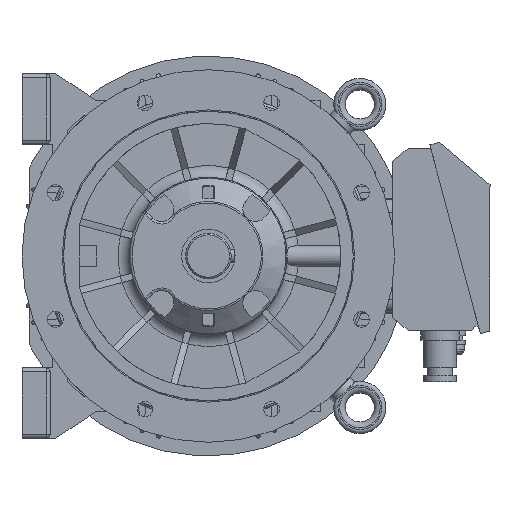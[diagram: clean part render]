
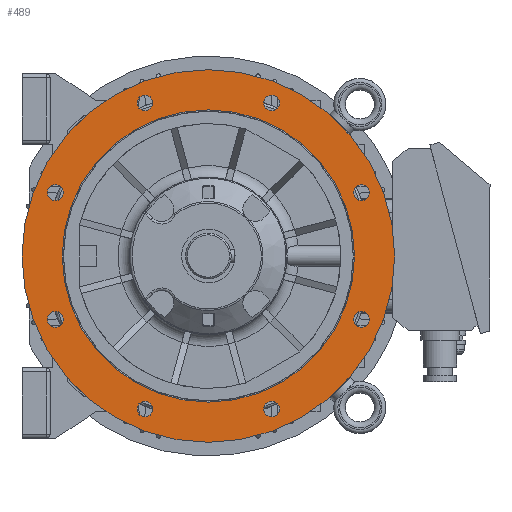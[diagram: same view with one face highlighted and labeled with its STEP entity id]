
A CAD part, front view. The second image highlights one B-rep face of the part: STEP entity #489.
In plain terms, the highlighted planar face has unit normal (0, -1, 0).
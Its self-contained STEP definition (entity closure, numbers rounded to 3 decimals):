
#489 = ADVANCED_FACE( '', ( #1917, #1918, #1919, #1920, #1921, #1922, #1923, #1924, #1925, #1926 ), #1927, .F. );
#1917 = FACE_BOUND( '', #4772, .T. );
#1918 = FACE_BOUND( '', #4773, .T. );
#1919 = FACE_BOUND( '', #4774, .T. );
#1920 = FACE_BOUND( '', #4775, .T. );
#1921 = FACE_BOUND( '', #4776, .T. );
#1922 = FACE_BOUND( '', #4777, .T. );
#1923 = FACE_BOUND( '', #4778, .T. );
#1924 = FACE_BOUND( '', #4779, .T. );
#1925 = FACE_BOUND( '', #4780, .T. );
#1926 = FACE_OUTER_BOUND( '', #4781, .T. );
#1927 = PLANE( '', #4782 );
#4772 = EDGE_LOOP( '', ( #10053 ) );
#4773 = EDGE_LOOP( '', ( #10054 ) );
#4774 = EDGE_LOOP( '', ( #10055 ) );
#4775 = EDGE_LOOP( '', ( #10056 ) );
#4776 = EDGE_LOOP( '', ( #10057 ) );
#4777 = EDGE_LOOP( '', ( #10058 ) );
#4778 = EDGE_LOOP( '', ( #10059 ) );
#4779 = EDGE_LOOP( '', ( #10060 ) );
#4780 = EDGE_LOOP( '', ( #10061 ) );
#4781 = EDGE_LOOP( '', ( #10062 ) );
#4782 = AXIS2_PLACEMENT_3D( '', #10063, #10064, #10065 );
#10053 = ORIENTED_EDGE( '', *, *, #15167, .F. );
#10054 = ORIENTED_EDGE( '', *, *, #15782, .F. );
#10055 = ORIENTED_EDGE( '', *, *, #15783, .F. );
#10056 = ORIENTED_EDGE( '', *, *, #15784, .F. );
#10057 = ORIENTED_EDGE( '', *, *, #15785, .F. );
#10058 = ORIENTED_EDGE( '', *, *, #15786, .F. );
#10059 = ORIENTED_EDGE( '', *, *, #15787, .F. );
#10060 = ORIENTED_EDGE( '', *, *, #15788, .F. );
#10061 = ORIENTED_EDGE( '', *, *, #15169, .F. );
#10062 = ORIENTED_EDGE( '', *, *, #15176, .F. );
#10063 = CARTESIAN_POINT( '', ( 0., -84.5, 176.395 ) );
#10064 = DIRECTION( '', ( 0., 1., 0. ) );
#10065 = DIRECTION( '', ( 0., 0., 1. ) );
#15167 = EDGE_CURVE( '', #18424, #18424, #18425, .T. );
#15169 = EDGE_CURVE( '', #18428, #18428, #18429, .T. );
#15176 = EDGE_CURVE( '', #18442, #18442, #18443, .T. );
#15782 = EDGE_CURVE( '', #19458, #19458, #19459, .T. );
#15783 = EDGE_CURVE( '', #19460, #19460, #19461, .T. );
#15784 = EDGE_CURVE( '', #19462, #19462, #19463, .T. );
#15785 = EDGE_CURVE( '', #19464, #19464, #19465, .T. );
#15786 = EDGE_CURVE( '', #19466, #19466, #19467, .T. );
#15787 = EDGE_CURVE( '', #19468, #19468, #19469, .T. );
#15788 = EDGE_CURVE( '', #19470, #19470, #19471, .T. );
#18424 = VERTEX_POINT( '', #23922 );
#18425 = CIRCLE( '', #23923, 176.395 );
#18428 = VERTEX_POINT( '', #23926 );
#18429 = CIRCLE( '', #23927, 9.5 );
#18442 = VERTEX_POINT( '', #23966 );
#18443 = CIRCLE( '', #23967, 224.995 );
#19458 = VERTEX_POINT( '', #26745 );
#19459 = CIRCLE( '', #26746, 9.5 );
#19460 = VERTEX_POINT( '', #26747 );
#19461 = CIRCLE( '', #26748, 9.5 );
#19462 = VERTEX_POINT( '', #26749 );
#19463 = CIRCLE( '', #26750, 9.5 );
#19464 = VERTEX_POINT( '', #26751 );
#19465 = CIRCLE( '', #26752, 9.5 );
#19466 = VERTEX_POINT( '', #26753 );
#19467 = CIRCLE( '', #26754, 9.5 );
#19468 = VERTEX_POINT( '', #26755 );
#19469 = CIRCLE( '', #26756, 9.5 );
#19470 = VERTEX_POINT( '', #26757 );
#19471 = CIRCLE( '', #26758, 9.5 );
#23922 = CARTESIAN_POINT( '', ( 0., -84.5, -176.395 ) );
#23923 = AXIS2_PLACEMENT_3D( '', #31574, #31575, #31576 );
#23926 = CARTESIAN_POINT( '', ( 184.776, -84.5, -86.037 ) );
#23927 = AXIS2_PLACEMENT_3D( '', #31580, #31581, #31582 );
#23966 = CARTESIAN_POINT( '', ( 0., -84.5, 224.995 ) );
#23967 = AXIS2_PLACEMENT_3D( '', #31595, #31596, #31597 );
#26745 = CARTESIAN_POINT( '', ( 76.537, -84.5, -194.276 ) );
#26746 = AXIS2_PLACEMENT_3D( '', #32505, #32506, #32507 );
#26747 = CARTESIAN_POINT( '', ( -76.537, -84.5, -194.276 ) );
#26748 = AXIS2_PLACEMENT_3D( '', #32508, #32509, #32510 );
#26749 = CARTESIAN_POINT( '', ( -184.776, -84.5, -86.037 ) );
#26750 = AXIS2_PLACEMENT_3D( '', #32511, #32512, #32513 );
#26751 = CARTESIAN_POINT( '', ( -184.776, -84.5, 67.037 ) );
#26752 = AXIS2_PLACEMENT_3D( '', #32514, #32515, #32516 );
#26753 = CARTESIAN_POINT( '', ( -76.537, -84.5, 175.276 ) );
#26754 = AXIS2_PLACEMENT_3D( '', #32517, #32518, #32519 );
#26755 = CARTESIAN_POINT( '', ( 76.537, -84.5, 175.276 ) );
#26756 = AXIS2_PLACEMENT_3D( '', #32520, #32521, #32522 );
#26757 = CARTESIAN_POINT( '', ( 184.776, -84.5, 67.037 ) );
#26758 = AXIS2_PLACEMENT_3D( '', #32523, #32524, #32525 );
#31574 = CARTESIAN_POINT( '', ( 0., -84.5, 0. ) );
#31575 = DIRECTION( '', ( 0., -1., 0. ) );
#31576 = DIRECTION( '', ( 0., 0., -1. ) );
#31580 = CARTESIAN_POINT( '', ( 184.776, -84.5, -76.537 ) );
#31581 = DIRECTION( '', ( 0., -1., 0. ) );
#31582 = DIRECTION( '', ( 0., 0., -1. ) );
#31595 = CARTESIAN_POINT( '', ( 0., -84.5, 0. ) );
#31596 = DIRECTION( '', ( 0., 1., 0. ) );
#31597 = DIRECTION( '', ( 0., 0., 1. ) );
#32505 = CARTESIAN_POINT( '', ( 76.537, -84.5, -184.776 ) );
#32506 = DIRECTION( '', ( 0., -1., 0. ) );
#32507 = DIRECTION( '', ( 0., 0., -1. ) );
#32508 = CARTESIAN_POINT( '', ( -76.537, -84.5, -184.776 ) );
#32509 = DIRECTION( '', ( 0., -1., 0. ) );
#32510 = DIRECTION( '', ( 0., 0., -1. ) );
#32511 = CARTESIAN_POINT( '', ( -184.776, -84.5, -76.537 ) );
#32512 = DIRECTION( '', ( 0., -1., 0. ) );
#32513 = DIRECTION( '', ( 0., 0., -1. ) );
#32514 = CARTESIAN_POINT( '', ( -184.776, -84.5, 76.537 ) );
#32515 = DIRECTION( '', ( 0., -1., 0. ) );
#32516 = DIRECTION( '', ( 0., 0., -1. ) );
#32517 = CARTESIAN_POINT( '', ( -76.537, -84.5, 184.776 ) );
#32518 = DIRECTION( '', ( 0., -1., 0. ) );
#32519 = DIRECTION( '', ( 0., 0., -1. ) );
#32520 = CARTESIAN_POINT( '', ( 76.537, -84.5, 184.776 ) );
#32521 = DIRECTION( '', ( 0., -1., 0. ) );
#32522 = DIRECTION( '', ( 0., 0., -1. ) );
#32523 = CARTESIAN_POINT( '', ( 184.776, -84.5, 76.537 ) );
#32524 = DIRECTION( '', ( 0., -1., 0. ) );
#32525 = DIRECTION( '', ( 0., 0., -1. ) );
